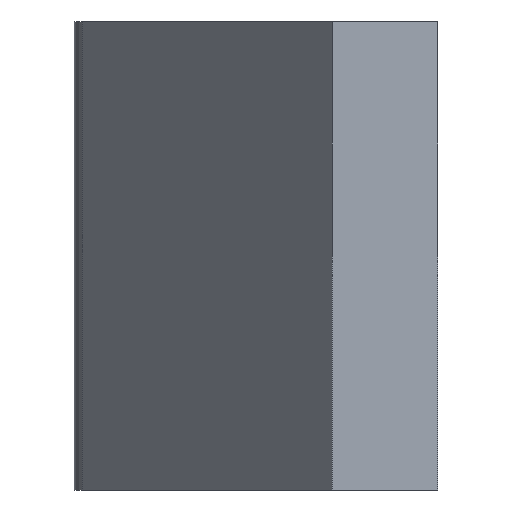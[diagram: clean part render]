
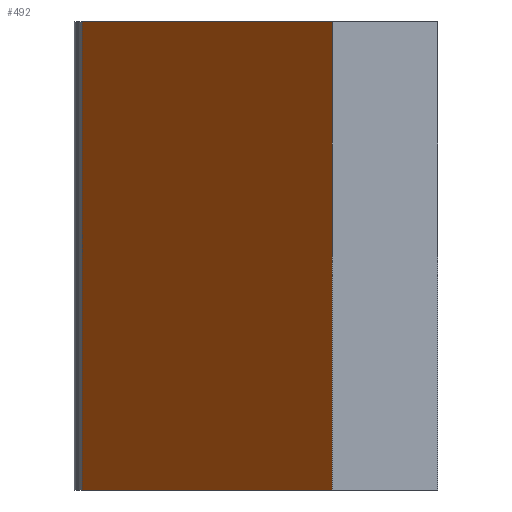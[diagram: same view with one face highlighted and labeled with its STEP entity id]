
A CAD part, left-side view. The second image highlights one B-rep face of the part: STEP entity #492.
In plain terms, the highlighted planar face has unit normal (-0.624, 0.782, 0).
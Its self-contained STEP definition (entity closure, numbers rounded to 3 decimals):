
#4 = ORIENTED_EDGE ( 'NONE', *, *, #44, .F. ) ;
#10 = CARTESIAN_POINT ( 'NONE',  ( 16.753, 19.006, 25. ) ) ;
#19 = CARTESIAN_POINT ( 'NONE',  ( 0., 5.646, 25. ) ) ;
#24 = LINE ( 'NONE', #10, #298 ) ;
#28 = VECTOR ( 'NONE', #508, 1000. ) ;
#44 = EDGE_CURVE ( 'NONE', #510, #363, #533, .T. ) ;
#73 = ORIENTED_EDGE ( 'NONE', *, *, #578, .T. ) ;
#74 = ORIENTED_EDGE ( 'NONE', *, *, #188, .F. ) ;
#97 = PLANE ( 'NONE',  #235 ) ;
#140 = DIRECTION ( 'NONE',  ( 0.623, -0.782, 0. ) ) ;
#143 = VECTOR ( 'NONE', #147, 1000. ) ;
#147 = DIRECTION ( 'NONE',  ( -0.782, -0.623, 0. ) ) ;
#188 = EDGE_CURVE ( 'NONE', #363, #339, #381, .T. ) ;
#195 = FACE_OUTER_BOUND ( 'NONE', #528, .T. ) ;
#235 = AXIS2_PLACEMENT_3D ( 'NONE', #243, #140, #568 ) ;
#243 = CARTESIAN_POINT ( 'NONE',  ( 18., 20., 25. ) ) ;
#250 = VECTOR ( 'NONE', #261, 1000. ) ;
#261 = DIRECTION ( 'NONE',  ( 0., 0., -1. ) ) ;
#286 = DIRECTION ( 'NONE',  ( 0., 0., -1. ) ) ;
#290 = VERTEX_POINT ( 'NONE', #573 ) ;
#298 = VECTOR ( 'NONE', #286, 1000. ) ;
#339 = VERTEX_POINT ( 'NONE', #481 ) ;
#362 = CARTESIAN_POINT ( 'NONE',  ( 0., 5.646, 25. ) ) ;
#363 = VERTEX_POINT ( 'NONE', #19 ) ;
#369 = EDGE_CURVE ( 'NONE', #290, #339, #579, .T. ) ;
#381 = LINE ( 'NONE', #362, #250 ) ;
#427 = CARTESIAN_POINT ( 'NONE',  ( 18., 20., 0. ) ) ;
#463 = CARTESIAN_POINT ( 'NONE',  ( 18., 20., 25. ) ) ;
#481 = CARTESIAN_POINT ( 'NONE',  ( 0., 5.646, 0. ) ) ;
#492 = ADVANCED_FACE ( 'NONE', ( #195 ), #97, .F. ) ;
#508 = DIRECTION ( 'NONE',  ( -0.782, -0.623, 0. ) ) ;
#510 = VERTEX_POINT ( 'NONE', #518 ) ;
#518 = CARTESIAN_POINT ( 'NONE',  ( 16.753, 19.006, 25. ) ) ;
#528 = EDGE_LOOP ( 'NONE', ( #4, #73, #562, #74 ) ) ;
#533 = LINE ( 'NONE', #463, #28 ) ;
#562 = ORIENTED_EDGE ( 'NONE', *, *, #369, .T. ) ;
#568 = DIRECTION ( 'NONE',  ( 0.782, 0.623, 0. ) ) ;
#573 = CARTESIAN_POINT ( 'NONE',  ( 16.753, 19.006, 0. ) ) ;
#578 = EDGE_CURVE ( 'NONE', #510, #290, #24, .T. ) ;
#579 = LINE ( 'NONE', #427, #143 ) ;
